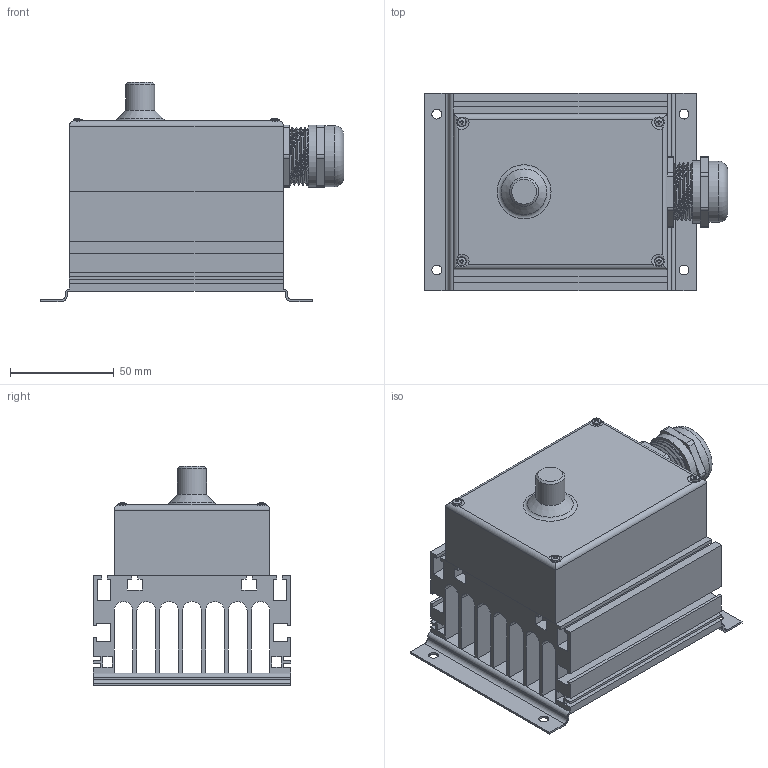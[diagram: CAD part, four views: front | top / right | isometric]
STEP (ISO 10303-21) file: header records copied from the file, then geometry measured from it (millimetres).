
FILE_DESCRIPTION(/* description */ (''),/* implementation_level */ '2;1');
FILE_NAME(/* name */ 'VPL73_.step',/* time_stamp */ '2024-08-28T09:20:24+02:00',/* author */ (''),/* organization */ (''),/* preprocessor_version */ 'ST-DEVELOPER v20',/* originating_system */ 'Autodesk Translation Framework v13.14.0.145',/* authorisation */ '');
FILE_SCHEMA (('AUTOMOTIVE_DESIGN { 1 0 10303 214 3 1 1 }'));
Length unit declared in the file: millimetre
Products named in the file (3): VPL73; Presse etoupe elctronique v2; Vis à tête cylindrique bombée JIS B 1111 - M2x4 Acier 4.6
 Standard v1
Assembly tree (8 placements, depth 2):
  VPL73
    Presse etoupe elctronique v2
    Vis à tête cylindrique bombée JIS B 1111 - M2x4 Acier 4.6
 Standard v1  x7
Bounding box: 146 x 95 x 105.5 mm (x, y, z)
Volume: 491559.6 mm3; surface area: 159168.4 mm2
Topology: 10 solids, 10 shells, 398 faces, 1066 edges, 689 vertices
Faces by surface type: plane 252, cylinder 106, cone 16, torus 13, sphere 7, bspline 4
Full cylindrical faces by diameter (mm): 1.678 x7, 1.933 x7, 2 x4, 4.7 x4, 8 x2, 12 x1, 14 x1, 18.3 x1, 19 x1, 20.367 x1, 23.755 x1, 25.529 x3, 27.822 x4, 29.5 x1, 30 x1
Entity records: 10653 total; most frequent: CARTESIAN_POINT 4089, ORIENTED_EDGE 1376, DIRECTION 1299, EDGE_CURVE 688, LINE 475, VECTOR 475, VERTEX_POINT 443, AXIS2_PLACEMENT_3D 412
